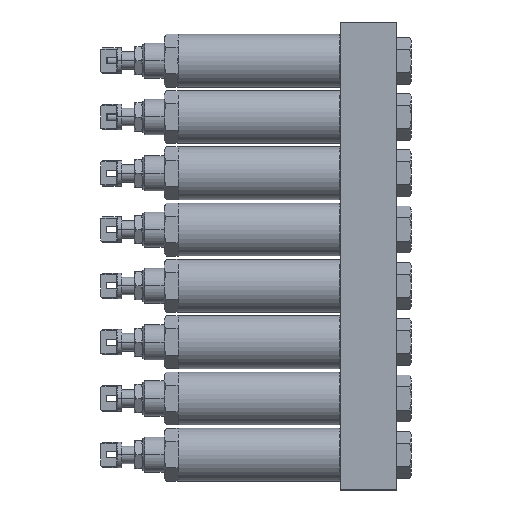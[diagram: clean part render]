
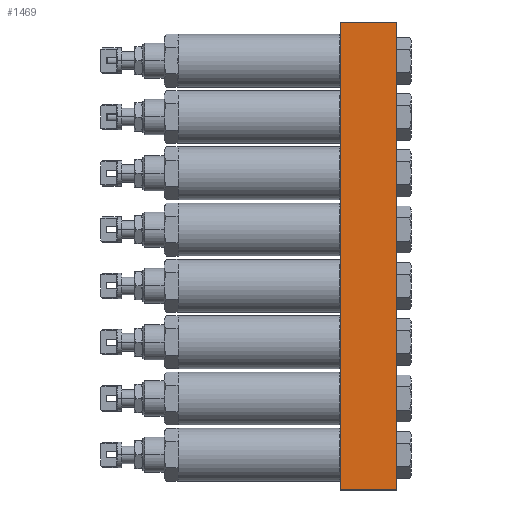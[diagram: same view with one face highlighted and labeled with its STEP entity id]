
A CAD part, left-side view. The second image highlights one B-rep face of the part: STEP entity #1469.
In plain terms, the highlighted planar face has unit normal (-1, 0, 0).
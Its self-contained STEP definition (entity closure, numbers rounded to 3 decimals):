
#271 = CARTESIAN_POINT ( 'NONE',  ( -39.141, -51.285, 22. ) ) ;
#1469 = ADVANCED_FACE ( 'NONE', ( #6111 ), #21968, .F. ) ;
#5959 = VERTEX_POINT ( 'NONE', #26542 ) ;
#6111 = FACE_OUTER_BOUND ( 'NONE', #22911, .T. ) ;
#6258 = VECTOR ( 'NONE', #29825, 1000. ) ;
#6544 = EDGE_CURVE ( 'NONE', #17449, #21665, #20990, .T. ) ;
#7806 = EDGE_CURVE ( 'NONE', #23382, #5959, #16893, .T. ) ;
#7866 = DIRECTION ( 'NONE',  ( 1., 0., 0. ) ) ;
#8100 = ORIENTED_EDGE ( 'NONE', *, *, #10940, .F. ) ;
#9597 = LINE ( 'NONE', #13399, #6258 ) ;
#10775 = CARTESIAN_POINT ( 'NONE',  ( -39.141, -51.285, 22. ) ) ;
#10916 = CARTESIAN_POINT ( 'NONE',  ( -39.141, -51.285, -244. ) ) ;
#10940 = EDGE_CURVE ( 'NONE', #17449, #23382, #18531, .T. ) ;
#12254 = CARTESIAN_POINT ( 'NONE',  ( -39.141, -51.285, -244. ) ) ;
#12429 = ORIENTED_EDGE ( 'NONE', *, *, #6544, .T. ) ;
#13050 = VECTOR ( 'NONE', #14104, 1000. ) ;
#13399 = CARTESIAN_POINT ( 'NONE',  ( -39.141, -83.285, 22. ) ) ;
#14084 = CARTESIAN_POINT ( 'NONE',  ( -39.141, -83.285, -244. ) ) ;
#14104 = DIRECTION ( 'NONE',  ( 0., 0., 1. ) ) ;
#14728 = VECTOR ( 'NONE', #15704, 1000. ) ;
#15003 = CARTESIAN_POINT ( 'NONE',  ( -39.141, -51.285, 22. ) ) ;
#15704 = DIRECTION ( 'NONE',  ( 0., -1., 0. ) ) ;
#16893 = LINE ( 'NONE', #15003, #21693 ) ;
#17156 = DIRECTION ( 'NONE',  ( 0., -1., 0. ) ) ;
#17449 = VERTEX_POINT ( 'NONE', #12254 ) ;
#18531 = LINE ( 'NONE', #271, #13050 ) ;
#18540 = ORIENTED_EDGE ( 'NONE', *, *, #23941, .T. ) ;
#20990 = LINE ( 'NONE', #10916, #14728 ) ;
#21665 = VERTEX_POINT ( 'NONE', #14084 ) ;
#21693 = VECTOR ( 'NONE', #17156, 1000. ) ;
#21968 = PLANE ( 'NONE',  #28822 ) ;
#22911 = EDGE_LOOP ( 'NONE', ( #18540, #26544, #8100, #12429 ) ) ;
#23382 = VERTEX_POINT ( 'NONE', #10775 ) ;
#23941 = EDGE_CURVE ( 'NONE', #21665, #5959, #9597, .T. ) ;
#26542 = CARTESIAN_POINT ( 'NONE',  ( -39.141, -83.285, 22. ) ) ;
#26544 = ORIENTED_EDGE ( 'NONE', *, *, #7806, .F. ) ;
#26665 = CARTESIAN_POINT ( 'NONE',  ( -39.141, -51.285, 22. ) ) ;
#28644 = DIRECTION ( 'NONE',  ( 0., 0., -1. ) ) ;
#28822 = AXIS2_PLACEMENT_3D ( 'NONE', #26665, #7866, #28644 ) ;
#29825 = DIRECTION ( 'NONE',  ( 0., 0., 1. ) ) ;
